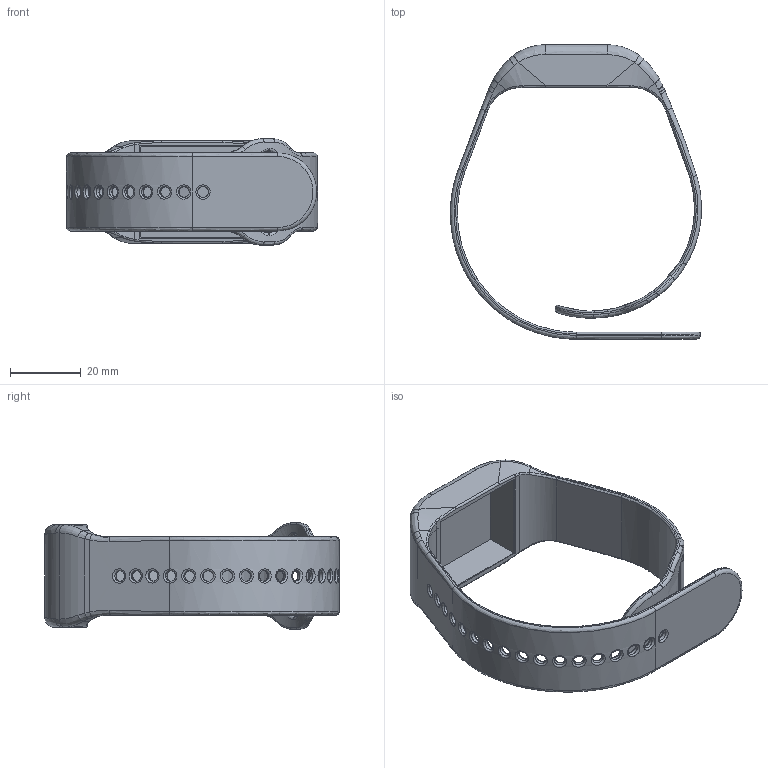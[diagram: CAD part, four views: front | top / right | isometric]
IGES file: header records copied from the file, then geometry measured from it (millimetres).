
Global section: file name: Bracciale; native system: Autodesk Inventor 2018; preprocessor: unknown; author: Alessia Buffagni; date: 20190730.152844; units: millimetre
Bounding box: 70.79 x 83 x 30 mm (x, y, z)
Volume: 14989.5 mm3; surface area: 15065.9 mm2
Topology: 1 solids, 1 shells, 260 faces, 614 edges, 354 vertices
Faces by surface type: bspline 260
